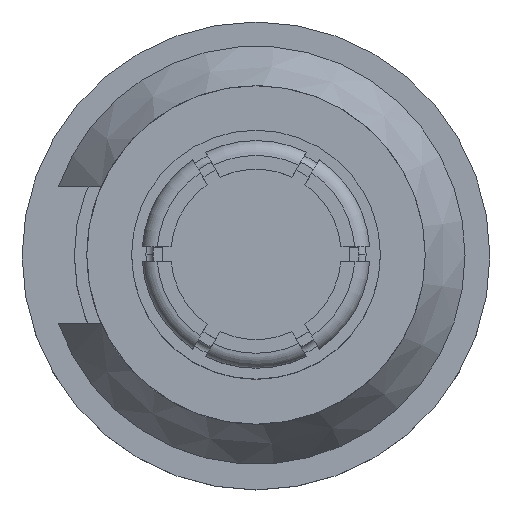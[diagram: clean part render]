
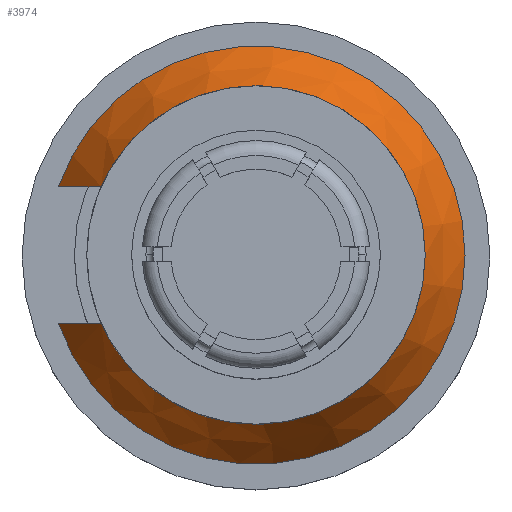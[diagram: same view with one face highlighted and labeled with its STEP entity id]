
A CAD part, top view. The second image highlights one B-rep face of the part: STEP entity #3974.
In plain terms, the highlighted conical face has half-angle 30 degrees and reference radius 2.134 mm.
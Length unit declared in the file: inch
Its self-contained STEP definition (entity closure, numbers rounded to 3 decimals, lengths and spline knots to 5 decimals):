
#27 = CIRCLE ( 'NONE', #4203, 0.068 ) ;
#61 = EDGE_CURVE ( 'NONE', #1056, #4774, #4996, .T. ) ;
#116 = CARTESIAN_POINT ( 'NONE',  ( 0., 0., -0.162 ) ) ;
#154 = DIRECTION ( 'NONE',  ( 1., 0., 0. ) ) ;
#283 = ORIENTED_EDGE ( 'NONE', *, *, #4969, .F. ) ;
#311 = AXIS2_PLACEMENT_3D ( 'NONE', #5134, #2623, #154 ) ;
#499 = CONICAL_SURFACE ( 'NONE', #3373, 0.084, 0.524 ) ;
#546 = DIRECTION ( 'NONE',  ( 1., 0., 0. ) ) ;
#559 = VERTEX_POINT ( 'NONE', #4297 ) ;
#611 = B_SPLINE_CURVE_WITH_KNOTS ( 'NONE', 3,
 ( #4282, #1373, #3436, #1783 ),
 .UNSPECIFIED., .F., .F.,
 ( 4, 4 ),
 ( 0.00223, 0.00306 ),
 .UNSPECIFIED. ) ;
#988 = VERTEX_POINT ( 'NONE', #2537 ) ;
#1056 = VERTEX_POINT ( 'NONE', #2364 ) ;
#1094 = CIRCLE ( 'NONE', #311, 0.084 ) ;
#1325 = CARTESIAN_POINT ( 'NONE',  ( 0., 0., -0.18971 ) ) ;
#1349 = EDGE_CURVE ( 'NONE', #559, #4196, #1569, .T. ) ;
#1373 = CARTESIAN_POINT ( 'NONE',  ( -0.0737, 0.0275, -0.18044 ) ) ;
#1465 = DIRECTION ( 'NONE',  ( 0., 0., -1. ) ) ;
#1569 = CIRCLE ( 'NONE', #2022, 0.084 ) ;
#1589 = CARTESIAN_POINT ( 'NONE',  ( 0., 0., -0.162 ) ) ;
#1742 = DIRECTION ( 'NONE',  ( 1., 0., 0. ) ) ;
#1783 = CARTESIAN_POINT ( 'NONE',  ( -0.06219, 0.0275, -0.162 ) ) ;
#1810 = ORIENTED_EDGE ( 'NONE', *, *, #2893, .T. ) ;
#1875 = ORIENTED_EDGE ( 'NONE', *, *, #4404, .T. ) ;
#1903 = CARTESIAN_POINT ( 'NONE',  ( 0., 0., -0.18971 ) ) ;
#1953 = CARTESIAN_POINT ( 'NONE',  ( -0.06219, -0.0275, -0.162 ) ) ;
#1994 = DIRECTION ( 'NONE',  ( 1., 0., 0. ) ) ;
#2022 = AXIS2_PLACEMENT_3D ( 'NONE', #1325, #4225, #1742 ) ;
#2138 = ORIENTED_EDGE ( 'NONE', *, *, #1349, .T. ) ;
#2198 = EDGE_LOOP ( 'NONE', ( #2138, #1875, #1810, #2405, #283, #4428 ) ) ;
#2362 = CARTESIAN_POINT ( 'NONE',  ( -0.0737, -0.0275, -0.18044 ) ) ;
#2364 = CARTESIAN_POINT ( 'NONE',  ( 0.068, 0., -0.162 ) ) ;
#2405 = ORIENTED_EDGE ( 'NONE', *, *, #61, .F. ) ;
#2537 = CARTESIAN_POINT ( 'NONE',  ( -0.06219, -0.0275, -0.162 ) ) ;
#2623 = DIRECTION ( 'NONE',  ( 0., 0., 1. ) ) ;
#2707 = EDGE_CURVE ( 'NONE', #988, #559, #3923, .T. ) ;
#2893 = EDGE_CURVE ( 'NONE', #5092, #4774, #611, .T. ) ;
#3004 = DIRECTION ( 'NONE',  ( 0., 0., 1. ) ) ;
#3373 = AXIS2_PLACEMENT_3D ( 'NONE', #1903, #1465, #4422 ) ;
#3436 = CARTESIAN_POINT ( 'NONE',  ( -0.06799, 0.0275, -0.17119 ) ) ;
#3710 = CARTESIAN_POINT ( 'NONE',  ( 0.084, 0., -0.18971 ) ) ;
#3887 = CARTESIAN_POINT ( 'NONE',  ( -0.06219, 0.0275, -0.162 ) ) ;
#3923 = B_SPLINE_CURVE_WITH_KNOTS ( 'NONE', 3,
 ( #1953, #4431, #2362, #5297 ),
 .UNSPECIFIED., .F., .F.,
 ( 4, 4 ),
 ( 0.00142, 0.00224 ),
 .UNSPECIFIED. ) ;
#3974 = ADVANCED_FACE ( 'NONE', ( #4326 ), #499, .T. ) ;
#4013 = AXIS2_PLACEMENT_3D ( 'NONE', #116, #3004, #546 ) ;
#4086 = CARTESIAN_POINT ( 'NONE',  ( -0.07937, 0.0275, -0.18971 ) ) ;
#4196 = VERTEX_POINT ( 'NONE', #3710 ) ;
#4203 = AXIS2_PLACEMENT_3D ( 'NONE', #1589, #4494, #1994 ) ;
#4225 = DIRECTION ( 'NONE',  ( 0., 0., 1. ) ) ;
#4282 = CARTESIAN_POINT ( 'NONE',  ( -0.07937, 0.0275, -0.18971 ) ) ;
#4297 = CARTESIAN_POINT ( 'NONE',  ( -0.07937, -0.0275, -0.18971 ) ) ;
#4326 = FACE_OUTER_BOUND ( 'NONE', #2198, .T. ) ;
#4404 = EDGE_CURVE ( 'NONE', #4196, #5092, #1094, .T. ) ;
#4422 = DIRECTION ( 'NONE',  ( -1., 0., 0. ) ) ;
#4428 = ORIENTED_EDGE ( 'NONE', *, *, #2707, .T. ) ;
#4431 = CARTESIAN_POINT ( 'NONE',  ( -0.06799, -0.0275, -0.17119 ) ) ;
#4494 = DIRECTION ( 'NONE',  ( 0., 0., 1. ) ) ;
#4774 = VERTEX_POINT ( 'NONE', #3887 ) ;
#4969 = EDGE_CURVE ( 'NONE', #988, #1056, #27, .T. ) ;
#4996 = CIRCLE ( 'NONE', #4013, 0.068 ) ;
#5092 = VERTEX_POINT ( 'NONE', #4086 ) ;
#5134 = CARTESIAN_POINT ( 'NONE',  ( 0., 0., -0.18971 ) ) ;
#5297 = CARTESIAN_POINT ( 'NONE',  ( -0.07937, -0.0275, -0.18971 ) ) ;
